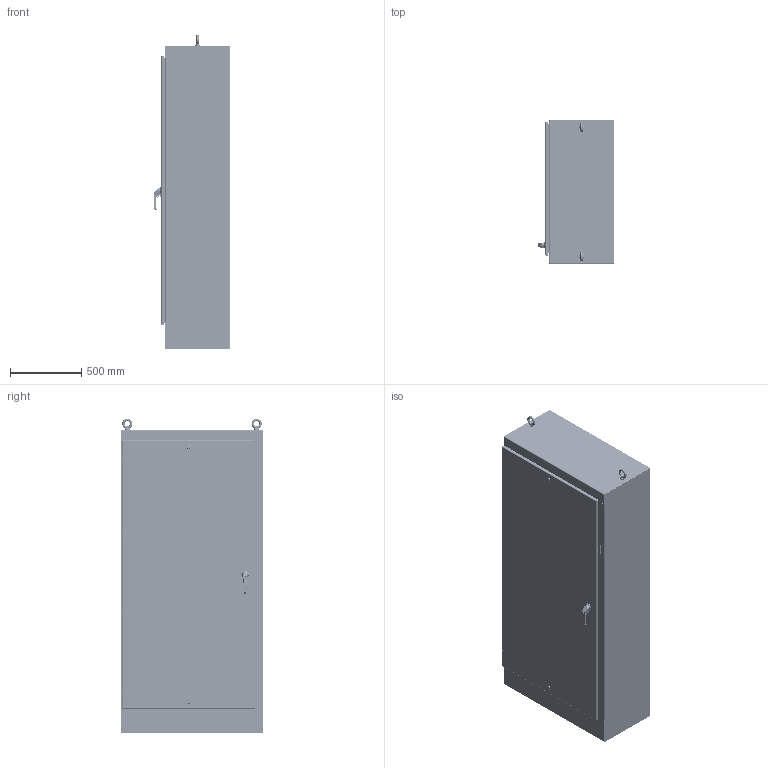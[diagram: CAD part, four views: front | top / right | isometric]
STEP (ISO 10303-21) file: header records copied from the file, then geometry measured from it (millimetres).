
FILE_DESCRIPTION((''),'2;1');
FILE_NAME('MODEL-213_ASM','2026-06-17T10:45:13',('andrew.knowlton'),('SAGINAW CONTROL & ENGINEERING'),'CREO PARAMETRIC BY PTC INC, 2021284','CREO PARAMETRIC BY PTC INC, 2021284','');
FILE_SCHEMA(('AUTOMOTIVE_DESIGN { 1 0 10303 214 1 1 1 1 }'));
Length unit declared in the file: inch
Products named in the file (70): MODEL-213-R-SD; MODEL-213-BTM; MODEL-213-TP; MODEL-213-BCK; MODEL-213-L-SD; MODEL-213-DR; 100837; 111267; 100882; 100953_SCREW_MTG; 100953_PADLOCK_CATCH; 100953_SCREW_LARGE; 100953_INSERT_SHAFT; 100953_INSERT_PCH; 100953_GASKET; 100953_O-RING; 100953_BASE; 100953_SPRING; 100953_HANDLE; 100953_CAM_SHAFT; 100953_HANDLE_ASM; 100953_CAM_ADAPTER; 100953_EARTH_NUT; 100953_FLANGE_NUT; 100953_CAM_NUT; 100953_CP_INSERT; 100953_SPRING_CAM; 100953_TORSION_SPRING; 100953_SCREW_INSERT; 100953_ASM; 102237; 100030; 102237_ASM; MODEL-213-ROD-UPR; 128146; 128145; 128144; 102482; MODEL-213-ROD-UPR_ASM; 128143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
Assembly tree (137 placements, depth 5):
  MODEL-213_ASM
    MODEL-213-R-SD
    MODEL-213-BTM
    MODEL-213-TP
    MODEL-213-BCK
    MODEL-213-L-SD
    MODEL-213-DOOR-ASSY_ASM
      MODEL-213-DR
      100837  x7
      111267
      100882  x12
      100953_ASM
        100953_SCREW_MTG
        100953_PADLOCK_CATCH
        100953_SCREW_LARGE  x2
        100953_INSERT_SHAFT
        100953_INSERT_PCH
        100953_GASKET
        100953_O-RING
        100953_BASE
        100953_SPRING
        100953_HANDLE_ASM
          100953_HANDLE
          100953_CAM_SHAFT
        100953_CAM_ADAPTER
        100953_EARTH_NUT
        100953_FLANGE_NUT
        100953_CAM_NUT
        100953_CP_INSERT
        100953_SPRING_CAM
        100953_TORSION_SPRING
        100953_SCREW_INSERT
      102237_ASM
        102237
        100030  x2
      MODEL-213-ROD-UPR_ASM
        MODEL-213-ROD-UPR
        128146
        128145
        128144
        102482  x2
      128143  x2
      112504  x2
      MODEL-213-ROD-LWR_ASM
        MODEL-213-ROD-LWR
        128146
        128145
        128144
        102482  x2
      MODEL-213-PR-GSKT
      113885_ASM  x2
        113885_SHAFT
        113885_INSERT
        113885_CAM_30MM
        113885_NUT
        113885_SCREW
      128258_ASM  x4
        128258
      126395  x4
      102483  x4
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Bounding box: 535.27 x 1003.3 x 2212.64 mm (x, y, z)
Volume: 26864859.3 mm3; surface area: 19409753.7 mm2
Topology: 146 solids, 146 shells, 13260 faces, 33768 edges, 20822 vertices
Faces by surface type: plane 4704, cylinder 3432, bspline 3050, torus 974, cone 732, sphere 338, extrusion 30
Entity records: 382474 total; most frequent: CARTESIAN_POINT 153940, ORIENTED_EDGE 34796, DIRECTION 31529, PRESENTATION_STYLE_ASSIGNMENT 18118, STYLED_ITEM 17836, EDGE_CURVE 17398, CURVE_STYLE 17188, AXIS2_PLACEMENT_3D 11692
